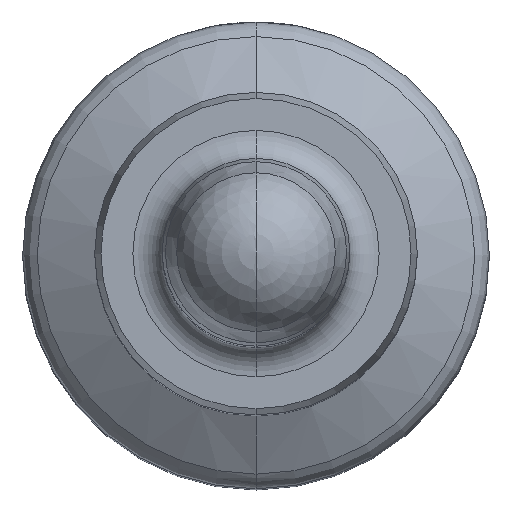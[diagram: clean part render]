
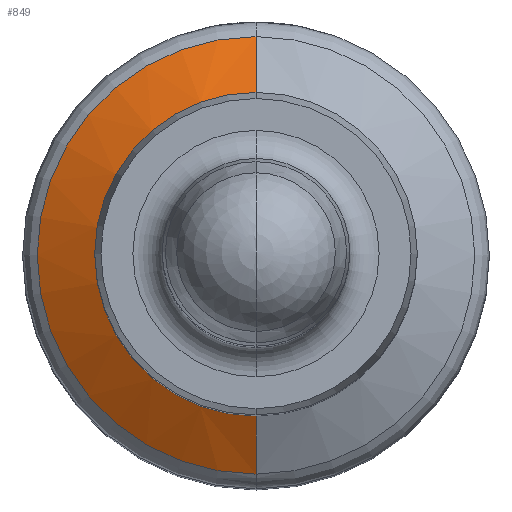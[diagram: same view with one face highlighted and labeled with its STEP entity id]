
A CAD part, top view. The second image highlights one B-rep face of the part: STEP entity #849.
In plain terms, the highlighted conical face has half-angle 60 degrees and reference radius 1.383 mm.
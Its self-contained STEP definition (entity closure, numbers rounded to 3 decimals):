
#307=CARTESIAN_POINT('',(0.,0.,-16.277));
#308=DIRECTION('',(0.,0.,-1.));
#309=DIRECTION('',(0.,-1.,0.));
#310=AXIS2_PLACEMENT_3D('',#307,#308,#309);
#312=DIRECTION('',(0.,-0.866,-0.5));
#313=VECTOR('',#312,1.114);
#314=CARTESIAN_POINT('',(0.,-0.9,-15.72));
#315=LINE('',#314,#313);
#316=DIRECTION('',(0.,0.866,-0.5));
#317=VECTOR('',#316,1.114);
#318=CARTESIAN_POINT('',(0.,0.9,-15.72));
#319=LINE('',#318,#317);
#320=CARTESIAN_POINT('',(0.,0.,-15.72));
#321=DIRECTION('',(0.,0.,-1.));
#322=DIRECTION('',(0.,-1.,0.));
#323=AXIS2_PLACEMENT_3D('',#320,#321,#322);
#584=CARTESIAN_POINT('',(0.,-0.9,-15.72));
#585=VERTEX_POINT('',#584);
#586=CARTESIAN_POINT('',(0.,-1.865,-16.277));
#587=VERTEX_POINT('',#586);
#616=CARTESIAN_POINT('',(0.,0.9,-15.72));
#617=VERTEX_POINT('',#616);
#618=CARTESIAN_POINT('',(0.,1.865,-16.277));
#619=VERTEX_POINT('',#618);
#835=CARTESIAN_POINT('',(0.,0.,-15.998));
#836=DIRECTION('',(0.,0.,-1.));
#837=DIRECTION('',(0.,-1.,0.));
#838=AXIS2_PLACEMENT_3D('',#835,#836,#837);
#839=CONICAL_SURFACE('',#838,1.383,60.);
#841=ORIENTED_EDGE('',*,*,#840,.T.);
#842=ORIENTED_EDGE('',*,*,#830,.T.);
#844=ORIENTED_EDGE('',*,*,#843,.F.);
#846=ORIENTED_EDGE('',*,*,#845,.F.);
#847=EDGE_LOOP('',(#841,#842,#844,#846));
#848=FACE_OUTER_BOUND('',#847,.F.);
#311=CIRCLE('',#310,1.865);
#324=CIRCLE('',#323,0.9);
#830=EDGE_CURVE('',#587,#619,#311,.T.);
#840=EDGE_CURVE('',#585,#587,#315,.T.);
#843=EDGE_CURVE('',#617,#619,#319,.T.);
#845=EDGE_CURVE('',#585,#617,#324,.T.);
#849=ADVANCED_FACE('',(#848),#839,.T.);
